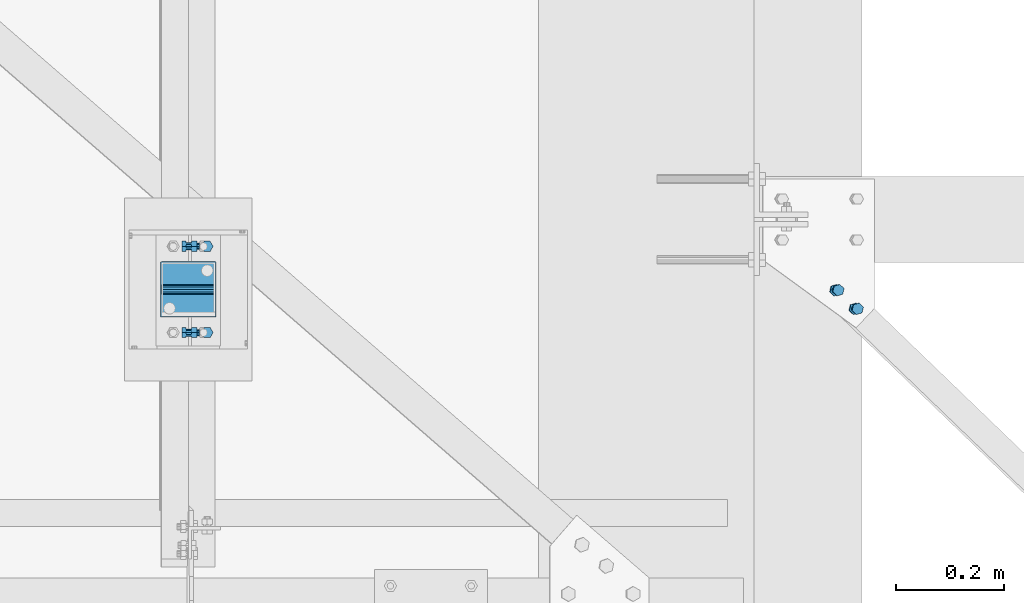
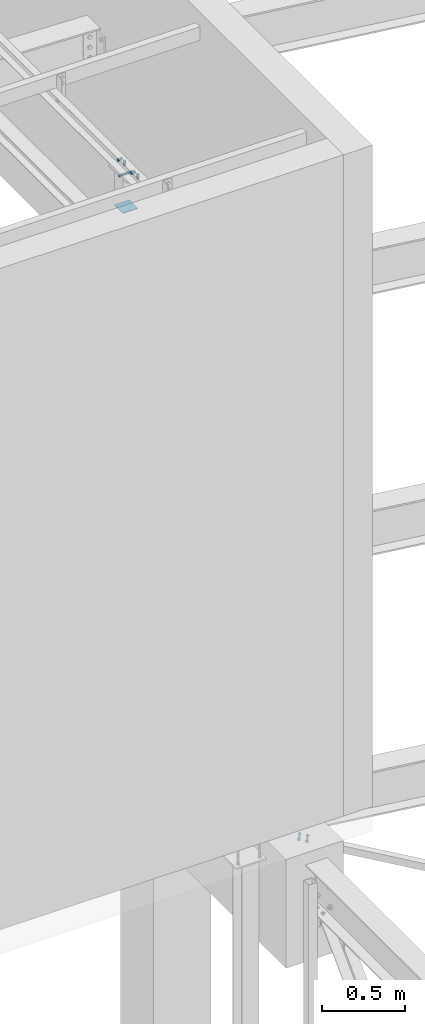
# One storey, part 266 of 3134: 5 mechanical fasteners, 3 elements without a shape of their own.
"""IFC2X3 building model written with IfcOpenShell, lengths in millimetres."""

from ifc_helpers import new_model, si_unit, frame, origin_with_axes, place, context, subcontext, project, spatial, faceted_brep, source, transform, mapped, material, type_object, element, aggregate, save


model = new_model("IFC2X3")

# Units and contexts
model_context = context("Model", 3, precision=1e-05, world=origin_with_axes())
body_context = subcontext(model_context, "Body", "Model", "MODEL_VIEW")
ifc_project = project(units=[si_unit("LENGTHUNIT", "METRE", prefix="MILLI"), si_unit("AREAUNIT", "SQUARE_METRE"), si_unit("VOLUMEUNIT", "CUBIC_METRE"), si_unit("MASSUNIT", "GRAM", prefix="KILO"), si_unit("TIMEUNIT", "SECOND"), si_unit("PLANEANGLEUNIT", "RADIAN"), si_unit("SOLIDANGLEUNIT", "STERADIAN"), si_unit("THERMODYNAMICTEMPERATUREUNIT", "DEGREE_CELSIUS"), si_unit("LUMINOUSINTENSITYUNIT", "LUMEN")], contexts=[model_context])

# Site, building, storey
site_placement = place(None, origin_with_axes())
site = spatial("IfcSite", under=ifc_project, at=site_placement, CompositionType="ELEMENT")
building_placement = place(site_placement, origin_with_axes())
building = spatial("IfcBuilding", under=site, at=building_placement, Name="Undefined", CompositionType="ELEMENT")
storey_placement = place(building_placement, origin_with_axes())
storey = spatial("IfcBuildingStorey", under=building, at=storey_placement, Name="Undefined", CompositionType="ELEMENT", Elevation=0.0)

# Assembly, mechanical fastener
assembly_1_placement = place(storey_placement, origin_with_axes())
assembly_1 = element("IfcElementAssembly", 1, at=assembly_1_placement, inside=storey, Name="PL8", AssemblyPlace="NOTDEFINED", PredefinedType="RIGID_FRAME")
ifc_material_1 = material(Name="8.8")
mechanical_fastener_type = type_object("IfcMechanicalFastenerType", Name="Bolt assembly")
shared_shape_1 = source(origin_with_axes(), body_context, "Body", "Brep", [
    faceted_brep([(10.9696551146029, -36.998574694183, 0.0), (5.48482755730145, -36.998574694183, 9.5), (-5.48482755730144, -36.998574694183, 9.5), (-10.9696551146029, -36.998574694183, 1.34339530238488e-15), (-5.48482755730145, -36.998574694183, -9.5), (5.48482755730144, -36.998574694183, -9.50000000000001), (5.48482755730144, -28.998574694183, -9.50000000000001), (-5.48482755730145, -28.998574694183, -9.5), (-10.9696551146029, -28.998574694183, 1.34339530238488e-15), (-5.48482755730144, -28.998574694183, 9.5), (5.48482755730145, -28.998574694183, 9.5), (10.9696551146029, -28.998574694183, 0.0), (6.0, -28.998574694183, 0.0), (5.19615242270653, -28.998574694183, 3.00000000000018), (2.99999999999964, -28.998574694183, 5.19615242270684), (-6.21801588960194e-13, -28.998574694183, 6.0), (-3.00000000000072, -28.998574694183, 5.19615242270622), (-5.19615242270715, -28.998574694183, 2.9999999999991), (-6.0, -28.998574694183, -1.24360317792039e-12), (-5.19615242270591, -28.998574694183, -3.00000000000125), (-2.99999999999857, -28.998574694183, -5.19615242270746), (1.85874342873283e-12, -28.998574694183, -6.0), (3.00000000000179, -28.998574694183, -5.1961524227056), (5.19615242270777, -28.998574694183, -2.99999999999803), (5.19615242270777, -3.99857469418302, -2.99999999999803), (3.00000000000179, -3.99857469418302, -5.1961524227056), (1.85874342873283e-12, -3.99857469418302, -6.0), (-2.99999999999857, -3.99857469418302, -5.19615242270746), (-5.19615242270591, -3.99857469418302, -3.00000000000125), (-6.0, -3.99857469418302, -1.24360317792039e-12), (-5.19615242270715, -3.99857469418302, 2.9999999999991), (-3.00000000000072, -3.99857469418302, 5.19615242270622), (-6.21801588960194e-13, -3.99857469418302, 6.0), (2.99999999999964, -3.99857469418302, 5.19615242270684), (5.19615242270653, -3.99857469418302, 3.00000000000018), (6.0, -3.99857469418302, 0.0), (10.9696551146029, 4.00000000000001, 0.0), (5.48482755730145, 4.00000000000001, 9.5), (-5.48482755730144, 4.00000000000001, 9.5), (-10.9696551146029, 4.00000000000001, 1.34339530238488e-15), (-5.48482755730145, 4.00000000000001, -9.5), (5.48482755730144, 4.00000000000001, -9.50000000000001), (5.48482755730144, 14.0, -9.50000000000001), (-5.48482755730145, 14.0, -9.5), (-10.9696551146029, 14.0, 1.34339530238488e-15), (-5.48482755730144, 14.0, 9.5), (5.48482755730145, 14.0, 9.5), (10.9696551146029, 14.0, 0.0)], [[[0, 1, 2, 3, 4, 5]], [[6, 7, 8, 9, 10, 11]], [[0, 11, 10, 1]], [[1, 10, 9, 2]], [[2, 9, 8, 3]], [[3, 8, 7, 4]], [[4, 7, 6, 5]], [[5, 6, 11, 0]], [[12, 13, 14, 15, 16, 17, 18, 19, 20, 21, 22, 23]], [[24, 25, 26, 27, 28, 29, 30, 31, 32, 33, 34, 35]], [[12, 35, 34, 13]], [[13, 34, 33, 14]], [[14, 33, 32, 15]], [[15, 32, 31, 16]], [[16, 31, 30, 17]], [[17, 30, 29, 18]], [[18, 29, 28, 19]], [[19, 28, 27, 20]], [[20, 27, 26, 21]], [[21, 26, 25, 22]], [[22, 25, 24, 23]], [[23, 24, 35, 12]], [[36, 37, 38, 39, 40, 41]], [[42, 43, 44, 45, 46, 47]], [[36, 47, 46, 37]], [[37, 46, 45, 38]], [[38, 45, 44, 39]], [[39, 44, 43, 40]], [[40, 43, 42, 41]], [[41, 42, 47, 36]]]),
    faceted_brep([(7.0, -28.898574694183, 0.0), (6.06217782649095, -28.898574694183, 3.50000000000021), (3.49999999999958, -28.898574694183, 6.06217782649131), (-7.25435187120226e-13, -28.898574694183, 7.0), (-3.50000000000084, -28.898574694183, 6.06217782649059), (-6.06217782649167, -28.898574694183, 3.49999999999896), (-7.0, -28.898574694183, -1.45087037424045e-12), (-6.06217782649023, -28.898574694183, -3.50000000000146), (-3.49999999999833, -28.898574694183, -6.06217782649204), (2.1685340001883e-12, -28.898574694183, -7.0), (3.50000000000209, -28.898574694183, -6.06217782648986), (6.0621778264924, -28.898574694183, -3.4999999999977), (6.0621778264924, -23.8985746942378, -3.4999999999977), (3.50000000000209, -23.8985746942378, -6.06217782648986), (2.1685340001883e-12, -23.8985746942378, -7.0), (-3.49999999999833, -23.8985746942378, -6.06217782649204), (-6.06217782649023, -23.8985746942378, -3.50000000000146), (-7.0, -23.8985746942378, -1.45087037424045e-12), (-6.06217782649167, -23.8985746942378, 3.49999999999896), (-3.50000000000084, -23.8985746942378, 6.06217782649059), (-7.25435187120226e-13, -23.8985746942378, 7.0), (3.49999999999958, -23.8985746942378, 6.06217782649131), (6.06217782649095, -23.8985746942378, 3.50000000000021), (7.0, -23.8985746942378, 0.0), (7.0, -4.09998541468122, 0.0), (6.06217782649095, -4.09998541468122, 3.50000000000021), (3.49999999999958, -4.09998541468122, 6.06217782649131), (-7.25435187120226e-13, -4.09998541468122, 7.0), (-3.50000000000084, -4.09998541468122, 6.06217782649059), (-6.06217782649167, -4.09998541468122, 3.49999999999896), (-7.0, -4.09998541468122, -1.45087037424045e-12), (-6.06217782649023, -4.09998541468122, -3.50000000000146), (-3.49999999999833, -4.09998541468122, -6.06217782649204), (2.1685340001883e-12, -4.09998541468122, -7.0), (3.50000000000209, -4.09998541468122, -6.06217782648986), (6.0621778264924, -4.09998541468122, -3.4999999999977), (6.0621778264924, 4.00000000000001, -3.4999999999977), (3.50000000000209, 4.00000000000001, -6.06217782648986), (2.1685340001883e-12, 4.00000000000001, -7.0), (-3.49999999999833, 4.00000000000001, -6.06217782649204), (-6.06217782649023, 4.00000000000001, -3.50000000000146), (-7.0, 4.00000000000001, -1.45087037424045e-12), (-6.06217782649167, 4.00000000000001, 3.49999999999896), (-3.50000000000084, 4.00000000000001, 6.06217782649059), (-7.25435187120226e-13, 4.00000000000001, 7.0), (3.49999999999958, 4.00000000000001, 6.06217782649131), (6.06217782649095, 4.00000000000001, 3.50000000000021), (7.0, 4.00000000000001, 0.0)], [[[0, 1, 2, 3, 4, 5, 6, 7, 8, 9, 10, 11]], [[12, 13, 14, 15, 16, 17, 18, 19, 20, 21, 22, 23]], [[0, 23, 22, 1]], [[1, 22, 21, 2]], [[2, 21, 20, 3]], [[3, 20, 19, 4]], [[4, 19, 18, 5]], [[5, 18, 17, 6]], [[6, 17, 16, 7]], [[7, 16, 15, 8]], [[8, 15, 14, 9]], [[9, 14, 13, 10]], [[10, 13, 12, 11]], [[11, 12, 23, 0]], [[24, 25, 26, 27, 28, 29, 30, 31, 32, 33, 34, 35]], [[36, 37, 38, 39, 40, 41, 42, 43, 44, 45, 46, 47]], [[24, 47, 46, 25]], [[25, 46, 45, 26]], [[26, 45, 44, 27]], [[27, 44, 43, 28]], [[28, 43, 42, 29]], [[29, 42, 41, 30]], [[30, 41, 40, 31]], [[31, 40, 39, 32]], [[32, 39, 38, 33]], [[33, 38, 37, 34]], [[34, 37, 36, 35]], [[35, 36, 47, 24]]]),
])
mechanical_fastener_1_placement = place(assembly_1_placement, frame((32876.8320634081, 50518.6936616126, 5439.54603387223), z_axis=(0.685977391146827, 0.722782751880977, -0.0837861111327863), x_axis=(0.717450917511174, -0.691075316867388, -0.0876304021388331)))
mechanical_fastener_1 = element("IfcMechanicalFastener", 2, at=mechanical_fastener_1_placement, type_object=mechanical_fastener_type, material=ifc_material_1, Name="Bolt assembly", NominalDiameter=12.0, NominalLength=25.0, context=body_context, shape_type="MappedRepresentation", body=[
    mapped(shared_shape_1, transform((0.0, 0.0, 0.0))),
    mapped(shared_shape_1, transform((50.000000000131, -1.38243194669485e-10, 0.0))),
])
aggregate(assembly_1, [mechanical_fastener_1])

assembly_2_placement = place(storey_placement, origin_with_axes())
assembly_2 = element("IfcElementAssembly", 3, at=assembly_2_placement, inside=storey, AssemblyPlace="NOTDEFINED", PredefinedType="RIGID_FRAME")
shared_shape_2 = source(origin_with_axes(), body_context, "Body", "Brep", [
    faceted_brep([(10.9696551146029, -14.0, 0.0), (5.48482755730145, -14.0, 9.5), (-5.48482755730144, -14.0, 9.5), (-10.9696551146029, -14.0, 1.34339530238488e-15), (-5.48482755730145, -14.0, -9.5), (5.48482755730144, -14.0, -9.50000000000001), (5.48482755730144, -6.0, -9.50000000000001), (-5.48482755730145, -6.0, -9.5), (-10.9696551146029, -6.0, 1.34339530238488e-15), (-5.48482755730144, -6.0, 9.5), (5.48482755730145, -6.0, 9.5), (10.9696551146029, -6.0, 0.0), (6.0, -6.0, 0.0), (5.19615242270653, -6.0, 3.00000000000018), (2.99999999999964, -6.0, 5.19615242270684), (-6.21801588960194e-13, -6.0, 6.0), (-3.00000000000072, -6.0, 5.19615242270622), (-5.19615242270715, -6.0, 2.9999999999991), (-6.0, -6.0, -1.24360317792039e-12), (-5.19615242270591, -6.0, -3.00000000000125), (-2.99999999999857, -6.0, -5.19615242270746), (1.85874342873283e-12, -6.0, -6.0), (3.00000000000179, -6.0, -5.1961524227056), (5.19615242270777, -6.0, -2.99999999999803), (5.19615242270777, 24.0, -2.99999999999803), (3.00000000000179, 24.0, -5.1961524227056), (1.85874342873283e-12, 24.0, -6.0), (-2.99999999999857, 24.0, -5.19615242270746), (-5.19615242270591, 24.0, -3.00000000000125), (-6.0, 24.0, -1.24360317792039e-12), (-5.19615242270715, 24.0, 2.9999999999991), (-3.00000000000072, 24.0, 5.19615242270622), (-6.21801588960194e-13, 24.0, 6.0), (2.99999999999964, 24.0, 5.19615242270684), (5.19615242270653, 24.0, 3.00000000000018), (6.0, 24.0, 0.0), (10.9696551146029, 6.00000000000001, 0.0), (5.48482755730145, 6.00000000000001, 9.5), (-5.48482755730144, 6.00000000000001, 9.5), (-10.9696551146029, 6.00000000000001, 1.34339530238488e-15), (-5.48482755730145, 6.00000000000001, -9.5), (5.48482755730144, 6.00000000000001, -9.50000000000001), (5.48482755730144, 16.0, -9.50000000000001), (-5.48482755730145, 16.0, -9.5), (-10.9696551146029, 16.0, 1.34339530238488e-15), (-5.48482755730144, 16.0, 9.5), (5.48482755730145, 16.0, 9.5), (10.9696551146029, 16.0, 0.0)], [[[0, 1, 2, 3, 4, 5]], [[6, 7, 8, 9, 10, 11]], [[0, 11, 10, 1]], [[1, 10, 9, 2]], [[2, 9, 8, 3]], [[3, 8, 7, 4]], [[4, 7, 6, 5]], [[5, 6, 11, 0]], [[12, 13, 14, 15, 16, 17, 18, 19, 20, 21, 22, 23]], [[24, 25, 26, 27, 28, 29, 30, 31, 32, 33, 34, 35]], [[12, 35, 34, 13]], [[13, 34, 33, 14]], [[14, 33, 32, 15]], [[15, 32, 31, 16]], [[16, 31, 30, 17]], [[17, 30, 29, 18]], [[18, 29, 28, 19]], [[19, 28, 27, 20]], [[20, 27, 26, 21]], [[21, 26, 25, 22]], [[22, 25, 24, 23]], [[23, 24, 35, 12]], [[36, 37, 38, 39, 40, 41]], [[42, 43, 44, 45, 46, 47]], [[36, 47, 46, 37]], [[37, 46, 45, 38]], [[38, 45, 44, 39]], [[39, 44, 43, 40]], [[40, 43, 42, 41]], [[41, 42, 47, 36]]]),
    faceted_brep([(7.0, -0.1, 0.0), (6.06217782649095, -0.1, 3.50000000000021), (3.49999999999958, -0.1, 6.06217782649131), (-7.25435187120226e-13, -0.1, 7.0), (-3.50000000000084, -0.1, 6.06217782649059), (-6.06217782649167, -0.1, 3.49999999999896), (-7.0, -0.1, -1.45087037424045e-12), (-6.06217782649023, -0.1, -3.50000000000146), (-3.49999999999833, -0.1, -6.06217782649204), (2.1685340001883e-12, -0.1, -7.0), (3.50000000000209, -0.1, -6.06217782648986), (6.0621778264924, -0.1, -3.4999999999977), (6.0621778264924, 6.00000000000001, -3.4999999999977), (3.50000000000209, 6.00000000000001, -6.06217782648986), (2.1685340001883e-12, 6.00000000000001, -7.0), (-3.49999999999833, 6.00000000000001, -6.06217782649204), (-6.06217782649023, 6.00000000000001, -3.50000000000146), (-7.0, 6.00000000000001, -1.45087037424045e-12), (-6.06217782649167, 6.00000000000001, 3.49999999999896), (-3.50000000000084, 6.00000000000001, 6.06217782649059), (-7.25435187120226e-13, 6.00000000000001, 7.0), (3.49999999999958, 6.00000000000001, 6.06217782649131), (6.06217782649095, 6.00000000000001, 3.50000000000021), (7.0, 6.00000000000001, 0.0), (7.0, -5.9, 0.0), (6.06217782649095, -5.9, 3.50000000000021), (3.49999999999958, -5.9, 6.06217782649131), (-7.25435187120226e-13, -5.9, 7.0), (-3.50000000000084, -5.9, 6.06217782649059), (-6.06217782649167, -5.9, 3.49999999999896), (-7.0, -5.9, -1.45087037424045e-12), (-6.06217782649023, -5.9, -3.50000000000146), (-3.49999999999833, -5.9, -6.06217782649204), (2.1685340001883e-12, -5.9, -7.0), (3.50000000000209, -5.9, -6.06217782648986), (6.0621778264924, -5.9, -3.4999999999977), (6.0621778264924, 0.0999999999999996, -3.4999999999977), (3.50000000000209, 0.0999999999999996, -6.06217782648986), (2.1685340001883e-12, 0.0999999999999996, -7.0), (-3.49999999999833, 0.0999999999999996, -6.06217782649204), (-6.06217782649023, 0.0999999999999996, -3.50000000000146), (-7.0, 0.0999999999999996, -1.45087037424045e-12), (-6.06217782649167, 0.0999999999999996, 3.49999999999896), (-3.50000000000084, 0.0999999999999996, 6.06217782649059), (-7.25435187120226e-13, 0.0999999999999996, 7.0), (3.49999999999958, 0.0999999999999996, 6.06217782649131), (6.06217782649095, 0.0999999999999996, 3.50000000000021), (7.0, 0.0999999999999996, 0.0)], [[[0, 1, 2, 3, 4, 5, 6, 7, 8, 9, 10, 11]], [[12, 13, 14, 15, 16, 17, 18, 19, 20, 21, 22, 23]], [[0, 23, 22, 1]], [[1, 22, 21, 2]], [[2, 21, 20, 3]], [[3, 20, 19, 4]], [[4, 19, 18, 5]], [[5, 18, 17, 6]], [[6, 17, 16, 7]], [[7, 16, 15, 8]], [[8, 15, 14, 9]], [[9, 14, 13, 10]], [[10, 13, 12, 11]], [[11, 12, 23, 0]], [[24, 25, 26, 27, 28, 29, 30, 31, 32, 33, 34, 35]], [[36, 37, 38, 39, 40, 41, 42, 43, 44, 45, 46, 47]], [[24, 47, 46, 25]], [[25, 46, 45, 26]], [[26, 45, 44, 27]], [[27, 44, 43, 28]], [[28, 43, 42, 29]], [[29, 42, 41, 30]], [[30, 41, 40, 31]], [[31, 40, 39, 32]], [[32, 39, 38, 33]], [[33, 38, 37, 34]], [[34, 37, 36, 35]], [[35, 36, 47, 24]]]),
])
mechanical_fastener_2_placement = place(assembly_2_placement, frame((31710.0, 50520.0, 10765.0), z_axis=(0.0, -1.0, 0.0), x_axis=(-1.0, 0.0, 0.0)))
mechanical_fastener_2 = element("IfcMechanicalFastener", 4, at=mechanical_fastener_2_placement, type_object=mechanical_fastener_type, material=ifc_material_1, Name="Bolt assembly", NominalDiameter=12.0, NominalLength=30.0, context=body_context, shape_type="MappedRepresentation", body=[
    mapped(shared_shape_2, transform((0.0, -5.32963895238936e-10, -79.9999999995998))),
    mapped(shared_shape_2, transform((0.0, 5.3114490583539e-10, 79.9999999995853))),
])

# Assembly, mechanical fasteners
assembly_3_placement = place(storey_placement, origin_with_axes())
assembly_3 = element("IfcElementAssembly", 5, at=assembly_3_placement, inside=storey, AssemblyPlace="NOTDEFINED", PredefinedType="RIGID_FRAME")
shared_shape_3 = source(origin_with_axes(), body_context, "Body", "Brep", [
    faceted_brep([(9.0, -50.0, 0.0), (7.79422863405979, -50.0, 4.50000000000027), (4.49999999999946, -50.0, 7.79422863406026), (-9.3270238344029e-13, -50.0, 9.0), (-4.50000000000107, -50.0, 7.79422863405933), (-7.79422863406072, -50.0, 4.49999999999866), (-9.0, -50.0, -1.86540476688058e-12), (-7.79422863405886, -50.0, -4.50000000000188), (-4.49999999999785, -50.0, -7.79422863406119), (2.78811514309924e-12, -50.0, -9.0), (4.50000000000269, -50.0, -7.7942286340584), (7.79422863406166, -50.0, -4.49999999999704), (7.79422863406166, 50.1, -4.49999999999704), (4.50000000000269, 50.1, -7.7942286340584), (2.78811514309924e-12, 50.1, -9.0), (-4.49999999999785, 50.1, -7.79422863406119), (-7.79422863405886, 50.1, -4.50000000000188), (-9.0, 50.1, -1.86540476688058e-12), (-7.79422863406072, 50.1, 4.49999999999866), (-4.50000000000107, 50.1, 7.79422863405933), (-9.3270238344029e-13, 50.1, 9.0), (4.49999999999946, 50.1, 7.79422863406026), (7.79422863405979, 50.1, 4.50000000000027), (9.0, 50.1, 0.0)], [[[0, 1, 2, 3, 4, 5, 6, 7, 8, 9, 10, 11]], [[12, 13, 14, 15, 16, 17, 18, 19, 20, 21, 22, 23]], [[0, 23, 22, 1]], [[1, 22, 21, 2]], [[2, 21, 20, 3]], [[3, 20, 19, 4]], [[4, 19, 18, 5]], [[5, 18, 17, 6]], [[6, 17, 16, 7]], [[7, 16, 15, 8]], [[8, 15, 14, 9]], [[9, 14, 13, 10]], [[10, 13, 12, 11]], [[11, 12, 23, 0]]]),
])
mechanical_fastener_3_placement = place(assembly_3_placement, frame((31675.0, 50520.0, 10745.0), z_axis=(0.0, 1.0, 0.0), x_axis=(0.0, 0.0, 1.0)))
mechanical_fastener_3 = element("IfcMechanicalFastener", 6, at=mechanical_fastener_3_placement, type_object=mechanical_fastener_type, material=ifc_material_1, Name="Bolt assembly", NominalDiameter=16.0, NominalLength=100.0, context=body_context, shape_type="MappedRepresentation", body=[
    mapped(shared_shape_3, transform((0.0, 0.0, 0.0))),
])
ifc_material_2 = material(Name="6.8")
shared_shape_4 = source(origin_with_axes(), body_context, "Body", "Brep", [
    faceted_brep([(51.5, 1.36424205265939e-12, 50.0), (51.3858192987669, 1.36424205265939e-12, 50.5740251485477), (51.0606601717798, 1.36424205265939e-12, 51.0606601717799), (50.5740251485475, 1.36424205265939e-12, 51.385819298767), (-50.0000000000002, 1.36424205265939e-12, 51.5), (-50.7500000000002, 1.36424205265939e-12, 51.2990381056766), (-51.2990381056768, 1.36424205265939e-12, 50.7499999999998), (-51.5, 1.36424205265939e-12, 49.9999999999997), (-51.5, 1.36424205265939e-12, -50.0000000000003), (-51.2990381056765, 1.36424205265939e-12, -50.7500000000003), (-50.7499999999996, 1.36424205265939e-12, -51.2990381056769), (-49.9999999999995, 1.36424205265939e-12, -51.5), (50.0000000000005, 1.36424205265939e-12, -51.5), (50.7500000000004, 1.36424205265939e-12, -51.2990381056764), (51.2990381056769, 1.36424205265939e-12, -50.7499999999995), (51.5, 1.36424205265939e-12, -49.9999999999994), (51.5, 5.10000000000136, -49.9999999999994), (51.2990381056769, 5.10000000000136, -50.7499999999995), (50.7500000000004, 5.10000000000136, -51.2990381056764), (50.0000000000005, 5.10000000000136, -51.5), (-49.9999999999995, 5.10000000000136, -51.5), (-50.7499999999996, 5.10000000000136, -51.2990381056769), (-51.2990381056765, 5.10000000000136, -50.7500000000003), (-51.5, 5.10000000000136, -50.0000000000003), (-51.5, 5.10000000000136, 49.9999999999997), (-51.2990381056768, 5.10000000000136, 50.7499999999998), (-50.7500000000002, 5.10000000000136, 51.2990381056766), (-50.0000000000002, 5.10000000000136, 51.5), (50.5740251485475, 5.10000000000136, 51.385819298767), (51.0606601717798, 5.10000000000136, 51.0606601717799), (51.3858192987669, 5.10000000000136, 50.5740251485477), (51.5, 5.10000000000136, 50.0)], [[[0, 1, 2, 3, 4, 5, 6, 7, 8, 9, 10, 11, 12, 13, 14, 15]], [[16, 17, 18, 19, 20, 21, 22, 23, 24, 25, 26, 27, 28, 29, 30, 31]], [[0, 31, 30, 1]], [[1, 30, 29, 2]], [[2, 29, 28, 3]], [[3, 28, 27, 4]], [[4, 27, 26, 5]], [[5, 26, 25, 6]], [[6, 25, 24, 7]], [[7, 24, 23, 8]], [[8, 23, 22, 9]], [[9, 22, 21, 10]], [[10, 21, 20, 11]], [[11, 20, 19, 12]], [[12, 19, 18, 13]], [[13, 18, 17, 14]], [[14, 17, 16, 15]], [[15, 16, 31, 0]]]),
])
mechanical_fastener_4_placement = place(assembly_3_placement, frame((31675.0, 50520.0, 10503.87), z_axis=(0.0, -1.0, 0.0), x_axis=(-1.0, 0.0, 0.0)))
mechanical_fastener_4 = element("IfcMechanicalFastener", 7, at=mechanical_fastener_4_placement, type_object=mechanical_fastener_type, material=ifc_material_2, Name="Bolt assembly", NominalDiameter=10.0, NominalLength=5.0, context=body_context, shape_type="MappedRepresentation", body=[
    mapped(shared_shape_4, transform((0.0, 0.0, 0.0))),
])
aggregate(assembly_3, [mechanical_fastener_3, mechanical_fastener_4])

# Mechanical fastener
shared_shape_5 = source(origin_with_axes(), body_context, "Body", "Brep", [
    faceted_brep([(10.9696551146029, -12.0, 0.0), (5.48482755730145, -12.0, 9.5), (-5.48482755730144, -12.0, 9.5), (-10.9696551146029, -12.0, 1.34339530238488e-15), (-5.48482755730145, -12.0, -9.5), (5.48482755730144, -12.0, -9.50000000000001), (5.48482755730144, -4.0, -9.50000000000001), (-5.48482755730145, -4.0, -9.5), (-10.9696551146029, -4.0, 1.34339530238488e-15), (-5.48482755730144, -4.0, 9.5), (5.48482755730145, -4.0, 9.5), (10.9696551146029, -4.0, 0.0), (6.0, -4.0, 0.0), (5.19615242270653, -4.0, 3.00000000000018), (2.99999999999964, -4.0, 5.19615242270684), (-6.21801588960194e-13, -4.0, 6.0), (-3.00000000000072, -4.0, 5.19615242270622), (-5.19615242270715, -4.0, 2.9999999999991), (-6.0, -4.0, -1.24360317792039e-12), (-5.19615242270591, -4.0, -3.00000000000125), (-2.99999999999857, -4.0, -5.19615242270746), (1.85874342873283e-12, -4.0, -6.0), (3.00000000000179, -4.0, -5.1961524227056), (5.19615242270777, -4.0, -2.99999999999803), (5.19615242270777, 21.0, -2.99999999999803), (3.00000000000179, 21.0, -5.1961524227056), (1.85874342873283e-12, 21.0, -6.0), (-2.99999999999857, 21.0, -5.19615242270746), (-5.19615242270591, 21.0, -3.00000000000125), (-6.0, 21.0, -1.24360317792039e-12), (-5.19615242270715, 21.0, 2.9999999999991), (-3.00000000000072, 21.0, 5.19615242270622), (-6.21801588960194e-13, 21.0, 6.0), (2.99999999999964, 21.0, 5.19615242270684), (5.19615242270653, 21.0, 3.00000000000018), (6.0, 21.0, 0.0), (10.9696551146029, 6.00000000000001, 0.0), (5.48482755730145, 6.00000000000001, 9.5), (-5.48482755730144, 6.00000000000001, 9.5), (-10.9696551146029, 6.00000000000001, 1.34339530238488e-15), (-5.48482755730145, 6.00000000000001, -9.5), (5.48482755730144, 6.00000000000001, -9.50000000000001), (5.48482755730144, 16.0, -9.50000000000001), (-5.48482755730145, 16.0, -9.5), (-10.9696551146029, 16.0, 1.34339530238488e-15), (-5.48482755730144, 16.0, 9.5), (5.48482755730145, 16.0, 9.5), (10.9696551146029, 16.0, 0.0)], [[[0, 1, 2, 3, 4, 5]], [[6, 7, 8, 9, 10, 11]], [[0, 11, 10, 1]], [[1, 10, 9, 2]], [[2, 9, 8, 3]], [[3, 8, 7, 4]], [[4, 7, 6, 5]], [[5, 6, 11, 0]], [[12, 13, 14, 15, 16, 17, 18, 19, 20, 21, 22, 23]], [[24, 25, 26, 27, 28, 29, 30, 31, 32, 33, 34, 35]], [[12, 35, 34, 13]], [[13, 34, 33, 14]], [[14, 33, 32, 15]], [[15, 32, 31, 16]], [[16, 31, 30, 17]], [[17, 30, 29, 18]], [[18, 29, 28, 19]], [[19, 28, 27, 20]], [[20, 27, 26, 21]], [[21, 26, 25, 22]], [[22, 25, 24, 23]], [[23, 24, 35, 12]], [[36, 37, 38, 39, 40, 41]], [[42, 43, 44, 45, 46, 47]], [[36, 47, 46, 37]], [[37, 46, 45, 38]], [[38, 45, 44, 39]], [[39, 44, 43, 40]], [[40, 43, 42, 41]], [[41, 42, 47, 36]]]),
    faceted_brep([(7.0, -3.9, 0.0), (6.06217782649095, -3.9, 3.50000000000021), (3.49999999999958, -3.9, 6.06217782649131), (-7.25435187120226e-13, -3.9, 7.0), (-3.50000000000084, -3.9, 6.06217782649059), (-6.06217782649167, -3.9, 3.49999999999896), (-7.0, -3.9, -1.45087037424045e-12), (-6.06217782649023, -3.9, -3.50000000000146), (-3.49999999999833, -3.9, -6.06217782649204), (2.1685340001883e-12, -3.9, -7.0), (3.50000000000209, -3.9, -6.06217782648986), (6.0621778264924, -3.9, -3.4999999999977), (6.0621778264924, 0.0999999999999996, -3.4999999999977), (3.50000000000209, 0.0999999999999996, -6.06217782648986), (2.1685340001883e-12, 0.0999999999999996, -7.0), (-3.49999999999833, 0.0999999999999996, -6.06217782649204), (-6.06217782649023, 0.0999999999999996, -3.50000000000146), (-7.0, 0.0999999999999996, -1.45087037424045e-12), (-6.06217782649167, 0.0999999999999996, 3.49999999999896), (-3.50000000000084, 0.0999999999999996, 6.06217782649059), (-7.25435187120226e-13, 0.0999999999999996, 7.0), (3.49999999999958, 0.0999999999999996, 6.06217782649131), (6.06217782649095, 0.0999999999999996, 3.50000000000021), (7.0, 0.0999999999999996, 0.0), (7.0, -0.1, 0.0), (6.06217782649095, -0.1, 3.50000000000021), (3.49999999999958, -0.1, 6.06217782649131), (-7.25435187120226e-13, -0.1, 7.0), (-3.50000000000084, -0.1, 6.06217782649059), (-6.06217782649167, -0.1, 3.49999999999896), (-7.0, -0.1, -1.45087037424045e-12), (-6.06217782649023, -0.1, -3.50000000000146), (-3.49999999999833, -0.1, -6.06217782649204), (2.1685340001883e-12, -0.1, -7.0), (3.50000000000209, -0.1, -6.06217782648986), (6.0621778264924, -0.1, -3.4999999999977), (6.0621778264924, 6.00000000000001, -3.4999999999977), (3.50000000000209, 6.00000000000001, -6.06217782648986), (2.1685340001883e-12, 6.00000000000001, -7.0), (-3.49999999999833, 6.00000000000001, -6.06217782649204), (-6.06217782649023, 6.00000000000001, -3.50000000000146), (-7.0, 6.00000000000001, -1.45087037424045e-12), (-6.06217782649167, 6.00000000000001, 3.49999999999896), (-3.50000000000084, 6.00000000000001, 6.06217782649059), (-7.25435187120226e-13, 6.00000000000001, 7.0), (3.49999999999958, 6.00000000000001, 6.06217782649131), (6.06217782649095, 6.00000000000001, 3.50000000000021), (7.0, 6.00000000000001, 0.0)], [[[0, 1, 2, 3, 4, 5, 6, 7, 8, 9, 10, 11]], [[12, 13, 14, 15, 16, 17, 18, 19, 20, 21, 22, 23]], [[0, 23, 22, 1]], [[1, 22, 21, 2]], [[2, 21, 20, 3]], [[3, 20, 19, 4]], [[4, 19, 18, 5]], [[5, 18, 17, 6]], [[6, 17, 16, 7]], [[7, 16, 15, 8]], [[8, 15, 14, 9]], [[9, 14, 13, 10]], [[10, 13, 12, 11]], [[11, 12, 23, 0]], [[24, 25, 26, 27, 28, 29, 30, 31, 32, 33, 34, 35]], [[36, 37, 38, 39, 40, 41, 42, 43, 44, 45, 46, 47]], [[24, 47, 46, 25]], [[25, 46, 45, 26]], [[26, 45, 44, 27]], [[27, 44, 43, 28]], [[28, 43, 42, 29]], [[29, 42, 41, 30]], [[30, 41, 40, 31]], [[31, 40, 39, 32]], [[32, 39, 38, 33]], [[33, 38, 37, 34]], [[34, 37, 36, 35]], [[35, 36, 47, 24]]]),
])
mechanical_fastener_5_placement = place(assembly_2_placement, frame((31675.0, 50520.0, 10800.0), z_axis=(0.0, -1.0, 0.0), x_axis=(0.0, 0.0, -1.0)))
mechanical_fastener_5 = element("IfcMechanicalFastener", 8, at=mechanical_fastener_5_placement, type_object=mechanical_fastener_type, material=ifc_material_1, Name="Bolt assembly", NominalDiameter=12.0, NominalLength=25.0, context=body_context, shape_type="MappedRepresentation", body=[
    mapped(shared_shape_5, transform((0.0, -5.32963895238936e-10, -79.9999999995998))),
    mapped(shared_shape_5, transform((0.0, 5.3114490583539e-10, 79.9999999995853))),
])

aggregate(assembly_2, [mechanical_fastener_5, mechanical_fastener_2])

save(model, "model.ifc")
